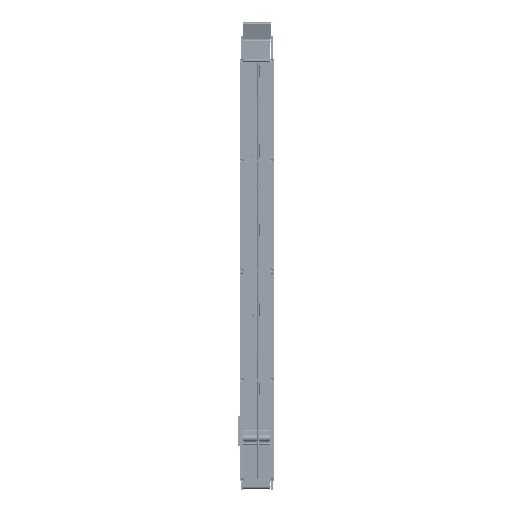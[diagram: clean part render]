
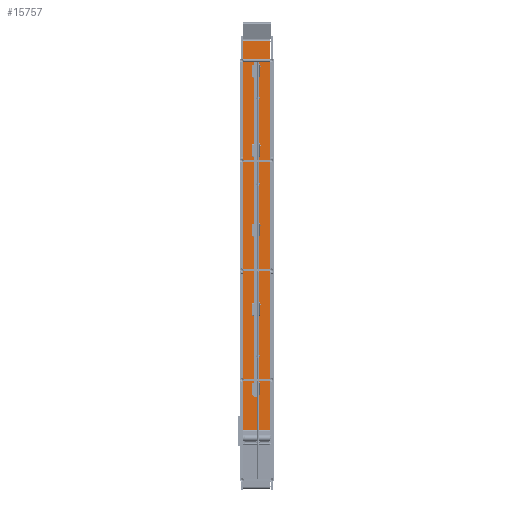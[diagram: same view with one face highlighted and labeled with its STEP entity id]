
A CAD part, front view. The second image highlights one B-rep face of the part: STEP entity #15757.
In plain terms, the highlighted planar face has unit normal (0, -1, 0.006) as drawn and (0.006, -1, 0) by its records, which use the part's own axes.
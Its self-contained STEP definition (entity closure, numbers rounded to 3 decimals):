
#3754=PLANE('',#57110);
#6847=LINE('',#75521,#11131);
#6859=LINE('',#75565,#11143);
#6868=LINE('',#75593,#11152);
#6869=LINE('',#75595,#11153);
#11131=VECTOR('',#61806,1.);
#11143=VECTOR('',#61844,1.);
#11152=VECTOR('',#61871,1.);
#11153=VECTOR('',#61874,1.);
#15757=ADVANCED_FACE('',(#18784),#3754,.F.);
#18784=FACE_OUTER_BOUND('',#21586,.T.);
#21586=EDGE_LOOP('',(#28680,#28681,#28682,#28683));
#28680=ORIENTED_EDGE('',*,*,#48321,.T.);
#28681=ORIENTED_EDGE('',*,*,#48337,.F.);
#28682=ORIENTED_EDGE('',*,*,#48297,.F.);
#28683=ORIENTED_EDGE('',*,*,#48336,.T.);
#43036=VERTEX_POINT('',#75520);
#43037=VERTEX_POINT('',#75522);
#43055=VERTEX_POINT('',#75564);
#43056=VERTEX_POINT('',#75566);
#48297=EDGE_CURVE('',#43036,#43037,#6847,.T.);
#48321=EDGE_CURVE('',#43056,#43055,#6859,.T.);
#48336=EDGE_CURVE('',#43036,#43056,#6868,.T.);
#48337=EDGE_CURVE('',#43037,#43055,#6869,.T.);
#57110=AXIS2_PLACEMENT_3D('',#75596,#61875,#61876);
#61806=DIRECTION('',(1.,0.006,0.));
#61844=DIRECTION('',(1.,0.006,0.));
#61871=DIRECTION('',(0.,0.,-1.));
#61874=DIRECTION('',(0.,0.,-1.));
#61875=DIRECTION('',(-0.006,1.,0.));
#61876=DIRECTION('',(1.,0.006,0.));
#75520=CARTESIAN_POINT('',(1037.,-76.5,500.));
#75521=CARTESIAN_POINT('',(8130.,-37.,500.));
#75522=CARTESIAN_POINT('',(8130.,-37.,500.));
#75564=CARTESIAN_POINT('',(8130.,-37.,0.));
#75565=CARTESIAN_POINT('',(8130.,-37.,0.));
#75566=CARTESIAN_POINT('',(1037.,-76.5,0.));
#75593=CARTESIAN_POINT('',(1037.,-76.5,500.));
#75595=CARTESIAN_POINT('',(8130.,-37.,500.));
#75596=CARTESIAN_POINT('',(8130.,-37.,500.));
